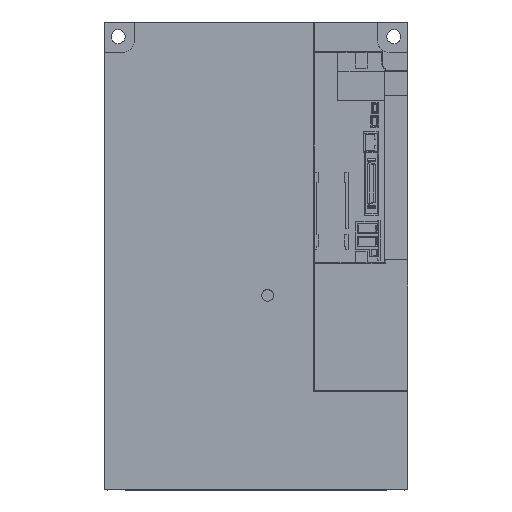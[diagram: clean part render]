
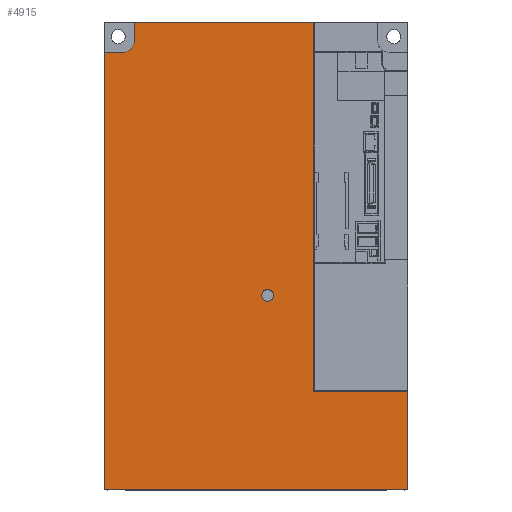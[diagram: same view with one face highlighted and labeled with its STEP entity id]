
A CAD part, top view. The second image highlights one B-rep face of the part: STEP entity #4915.
In plain terms, the highlighted planar face has unit normal (0, 0, 1).
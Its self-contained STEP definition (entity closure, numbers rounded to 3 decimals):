
#4524=CARTESIAN_POINT('',(10.,-34.,27.));
#4525=DIRECTION('',(0.,0.,1.));
#4526=DIRECTION('',(1.,0.,0.));
#4527=AXIS2_PLACEMENT_3D('',#4524,#4525,#4526);
#4529=CARTESIAN_POINT('',(10.,-34.,27.));
#4530=DIRECTION('',(0.,0.,1.));
#4531=DIRECTION('',(-1.,0.,0.));
#4532=AXIS2_PLACEMENT_3D('',#4529,#4530,#4531);
#4534=DIRECTION('',(1.,0.,0.));
#4535=VECTOR('',#4534,16.);
#4536=CARTESIAN_POINT('',(-130.,174.,27.));
#4537=LINE('',#4536,#4535);
#4538=DIRECTION('',(0.,-1.,0.));
#4539=VECTOR('',#4538,16.);
#4540=CARTESIAN_POINT('',(-104.,200.,27.));
#4541=LINE('',#4540,#4539);
#4542=DIRECTION('',(-1.,0.,0.));
#4543=VECTOR('',#4542,153.5);
#4544=CARTESIAN_POINT('',(49.5,200.,27.));
#4545=LINE('',#4544,#4543);
#4546=DIRECTION('',(0.,-1.,0.));
#4547=VECTOR('',#4546,316.);
#4548=CARTESIAN_POINT('',(49.5,200.,27.));
#4549=LINE('',#4548,#4547);
#4550=DIRECTION('',(-1.,0.,0.));
#4551=VECTOR('',#4550,80.5);
#4552=CARTESIAN_POINT('',(130.,-116.,27.));
#4553=LINE('',#4552,#4551);
#4554=DIRECTION('',(0.,1.,0.));
#4555=VECTOR('',#4554,84.);
#4556=CARTESIAN_POINT('',(130.,-200.,27.));
#4557=LINE('',#4556,#4555);
#4558=DIRECTION('',(1.,0.,0.));
#4559=VECTOR('',#4558,260.);
#4560=CARTESIAN_POINT('',(-130.,-200.,27.));
#4561=LINE('',#4560,#4559);
#4562=DIRECTION('',(0.,-1.,0.));
#4563=VECTOR('',#4562,374.);
#4564=CARTESIAN_POINT('',(-130.,174.,27.));
#4565=LINE('',#4564,#4563);
#4574=CARTESIAN_POINT('',(-114.,184.,27.));
#4575=DIRECTION('',(0.,0.,-1.));
#4576=DIRECTION('',(1.,0.,0.));
#4577=AXIS2_PLACEMENT_3D('',#4574,#4575,#4576);
#4620=CARTESIAN_POINT('',(-130.,-200.,27.));
#4621=CARTESIAN_POINT('',(130.,-200.,27.));
#4622=VERTEX_POINT('',#4620);
#4623=VERTEX_POINT('',#4621);
#4630=CARTESIAN_POINT('',(49.5,200.,27.));
#4631=CARTESIAN_POINT('',(49.5,-116.,27.));
#4632=VERTEX_POINT('',#4630);
#4633=VERTEX_POINT('',#4631);
#4634=CARTESIAN_POINT('',(130.,-116.,27.));
#4635=VERTEX_POINT('',#4634);
#4637=CARTESIAN_POINT('',(-130.,174.,27.));
#4639=VERTEX_POINT('',#4637);
#4641=CARTESIAN_POINT('',(-104.,200.,27.));
#4643=VERTEX_POINT('',#4641);
#4676=CARTESIAN_POINT('',(15.,-34.,27.));
#4677=CARTESIAN_POINT('',(5.,-34.,27.));
#4678=VERTEX_POINT('',#4676);
#4679=VERTEX_POINT('',#4677);
#4684=CARTESIAN_POINT('',(-104.,184.,27.));
#4686=VERTEX_POINT('',#4684);
#4688=CARTESIAN_POINT('',(-114.,174.,27.));
#4690=VERTEX_POINT('',#4688);
#4885=CARTESIAN_POINT('',(0.,0.,27.));
#4886=DIRECTION('',(0.,0.,1.));
#4887=DIRECTION('',(1.,0.,0.));
#4888=AXIS2_PLACEMENT_3D('',#4885,#4886,#4887);
#4889=PLANE('',#4888);
#4891=ORIENTED_EDGE('',*,*,#4890,.T.);
#4893=ORIENTED_EDGE('',*,*,#4892,.F.);
#4895=ORIENTED_EDGE('',*,*,#4894,.F.);
#4897=ORIENTED_EDGE('',*,*,#4896,.F.);
#4899=ORIENTED_EDGE('',*,*,#4898,.T.);
#4901=ORIENTED_EDGE('',*,*,#4900,.F.);
#4903=ORIENTED_EDGE('',*,*,#4902,.F.);
#4905=ORIENTED_EDGE('',*,*,#4904,.F.);
#4907=ORIENTED_EDGE('',*,*,#4906,.F.);
#4908=EDGE_LOOP('',(#4891,#4893,#4895,#4897,#4899,#4901,#4903,#4905,#4907));
#4909=FACE_OUTER_BOUND('',#4908,.F.);
#4910=ORIENTED_EDGE('',*,*,#4875,.T.);
#4912=ORIENTED_EDGE('',*,*,#4911,.T.);
#4913=EDGE_LOOP('',(#4910,#4912));
#4914=FACE_BOUND('',#4913,.F.);
#4915=ADVANCED_FACE('',(#4909,#4914),#4889,.T.);
#4528=CIRCLE('',#4527,5.);
#4533=CIRCLE('',#4532,5.);
#4578=CIRCLE('',#4577,10.);
#4875=EDGE_CURVE('',#4678,#4679,#4528,.T.);
#4890=EDGE_CURVE('',#4639,#4690,#4537,.T.);
#4892=EDGE_CURVE('',#4686,#4690,#4578,.T.);
#4894=EDGE_CURVE('',#4643,#4686,#4541,.T.);
#4896=EDGE_CURVE('',#4632,#4643,#4545,.T.);
#4898=EDGE_CURVE('',#4632,#4633,#4549,.T.);
#4900=EDGE_CURVE('',#4635,#4633,#4553,.T.);
#4902=EDGE_CURVE('',#4623,#4635,#4557,.T.);
#4904=EDGE_CURVE('',#4622,#4623,#4561,.T.);
#4906=EDGE_CURVE('',#4639,#4622,#4565,.T.);
#4911=EDGE_CURVE('',#4679,#4678,#4533,.T.);
